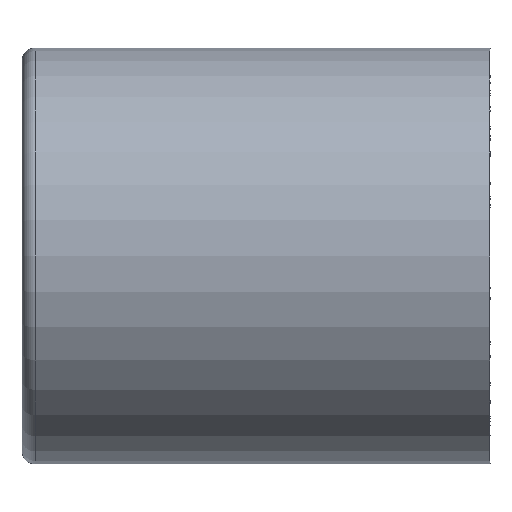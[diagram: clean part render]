
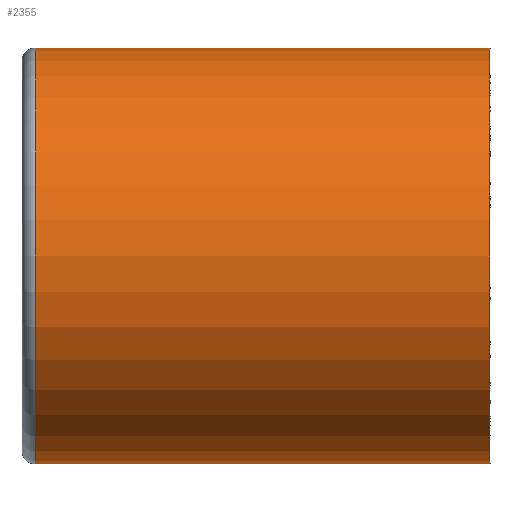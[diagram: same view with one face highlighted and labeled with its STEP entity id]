
A CAD part, front view. The second image highlights one B-rep face of the part: STEP entity #2355.
In plain terms, the highlighted cylindrical face has radius 32 mm (diameter 64 mm), a partial arc.
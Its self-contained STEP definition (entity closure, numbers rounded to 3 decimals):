
#108 = CARTESIAN_POINT ( 'NONE',  ( -32.602, 7.851, -32. ) ) ;
#307 = CARTESIAN_POINT ( 'NONE',  ( -102.602, 7.851, -32. ) ) ;
#610 = DIRECTION ( 'NONE',  ( 0., 0., -1. ) ) ;
#629 = VECTOR ( 'NONE', #5009, 1000. ) ;
#674 = DIRECTION ( 'NONE',  ( 1., 0., 0. ) ) ;
#683 = CARTESIAN_POINT ( 'NONE',  ( -20.571, 7.851, 0. ) ) ;
#890 = EDGE_CURVE ( 'NONE', #4292, #6020, #3297, .T. ) ;
#944 = EDGE_CURVE ( 'NONE', #4389, #5917, #3237, .T. ) ;
#1202 = AXIS2_PLACEMENT_3D ( 'NONE', #6046, #6039, #6034 ) ;
#1237 = AXIS2_PLACEMENT_3D ( 'NONE', #6280, #6269, #6268 ) ;
#2066 = EDGE_LOOP ( 'NONE', ( #4959, #4426, #5606, #6716 ) ) ;
#2355 = ADVANCED_FACE ( 'NONE', ( #3379 ), #3823, .T. ) ;
#2602 = VECTOR ( 'NONE', #3683, 1000. ) ;
#2814 = CARTESIAN_POINT ( 'NONE',  ( -20.571, 7.851, 32. ) ) ;
#2832 = CARTESIAN_POINT ( 'NONE',  ( -102.602, 7.851, 32. ) ) ;
#3237 = CIRCLE ( 'NONE', #1202, 32. ) ;
#3297 = CIRCLE ( 'NONE', #1237, 32. ) ;
#3379 = FACE_OUTER_BOUND ( 'NONE', #2066, .T. ) ;
#3683 = DIRECTION ( 'NONE',  ( 1., 0., 0. ) ) ;
#3715 = CARTESIAN_POINT ( 'NONE',  ( -20.571, 7.851, -32. ) ) ;
#3823 = CYLINDRICAL_SURFACE ( 'NONE', #6368, 32. ) ;
#3900 = EDGE_CURVE ( 'NONE', #5917, #6020, #6094, .T. ) ;
#4292 = VERTEX_POINT ( 'NONE', #5258 ) ;
#4389 = VERTEX_POINT ( 'NONE', #2832 ) ;
#4426 = ORIENTED_EDGE ( 'NONE', *, *, #944, .T. ) ;
#4435 = EDGE_CURVE ( 'NONE', #4389, #4292, #5124, .T. ) ;
#4959 = ORIENTED_EDGE ( 'NONE', *, *, #4435, .F. ) ;
#5009 = DIRECTION ( 'NONE',  ( 1., 0., 0. ) ) ;
#5124 = LINE ( 'NONE', #2814, #629 ) ;
#5258 = CARTESIAN_POINT ( 'NONE',  ( -32.602, 7.851, 32. ) ) ;
#5606 = ORIENTED_EDGE ( 'NONE', *, *, #3900, .T. ) ;
#5917 = VERTEX_POINT ( 'NONE', #307 ) ;
#6020 = VERTEX_POINT ( 'NONE', #108 ) ;
#6034 = DIRECTION ( 'NONE',  ( 0., 0., 1. ) ) ;
#6039 = DIRECTION ( 'NONE',  ( 1., 0., 0. ) ) ;
#6046 = CARTESIAN_POINT ( 'NONE',  ( -102.602, 7.851, 0. ) ) ;
#6094 = LINE ( 'NONE', #3715, #2602 ) ;
#6268 = DIRECTION ( 'NONE',  ( 0., 0., -1. ) ) ;
#6269 = DIRECTION ( 'NONE',  ( 1., 0., 0. ) ) ;
#6280 = CARTESIAN_POINT ( 'NONE',  ( -32.602, 7.851, 0. ) ) ;
#6368 = AXIS2_PLACEMENT_3D ( 'NONE', #683, #674, #610 ) ;
#6716 = ORIENTED_EDGE ( 'NONE', *, *, #890, .F. ) ;
